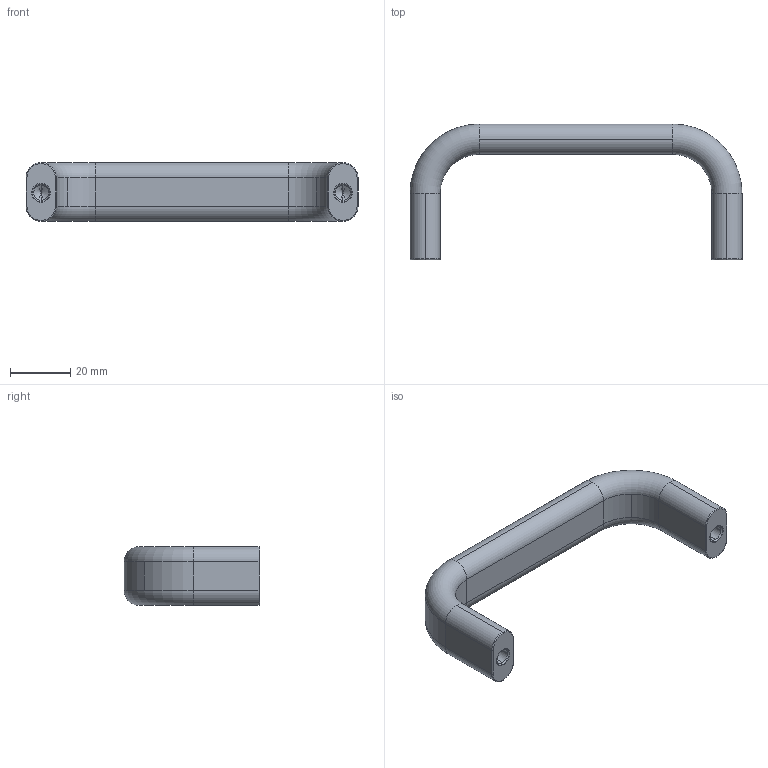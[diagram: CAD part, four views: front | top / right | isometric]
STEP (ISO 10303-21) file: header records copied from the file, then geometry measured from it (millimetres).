
FILE_DESCRIPTION((''),'2;1');
FILE_NAME('c:\wix\Knobs\7892\7892.W110.stp','2003-04-04T16:42:04',('joanc'),(''),'Autodesk Inventor (tm) 5.3','Autodesk Inventor (tm) 5.3','');
FILE_SCHEMA(('CONFIG_CONTROL_DESIGN'));
Length unit declared in the file: millimetre
Products named in the file (1): 7892.W110
Bounding box: 110 x 45 x 19.5 mm (x, y, z)
Volume: 27862.3 mm3; surface area: 9161.5 mm2
Topology: 1 solids, 1 shells, 68 faces, 154 edges, 86 vertices
Faces by surface type: cylinder 32, torus 16, cone 12, plane 8
Entity records: 1965 total; most frequent: DIRECTION 380, CARTESIAN_POINT 305, ORIENTED_EDGE 300, AXIS2_PLACEMENT_3D 161, EDGE_CURVE 150, CIRCLE 92, VERTEX_POINT 86, EDGE_LOOP 70
